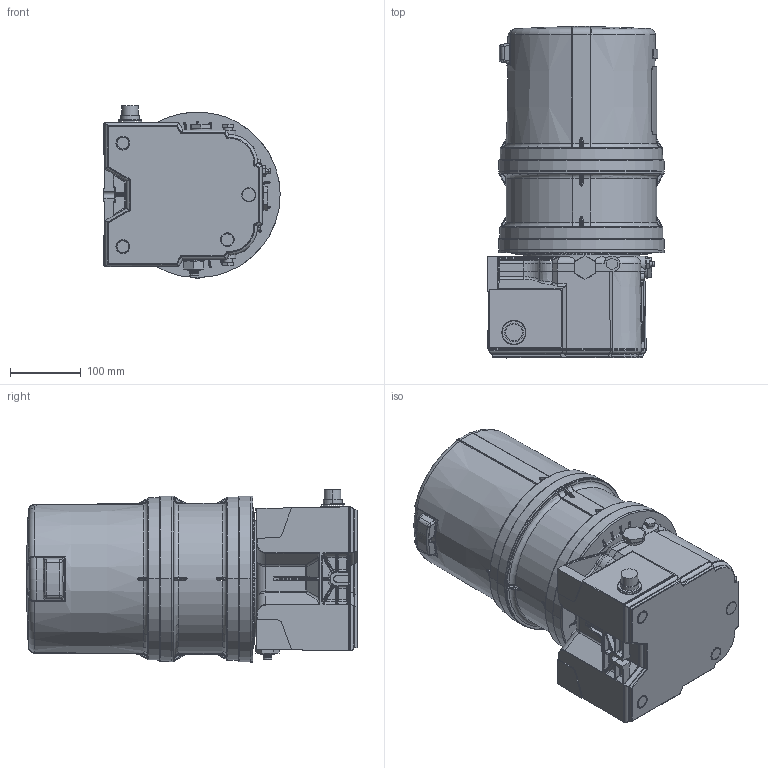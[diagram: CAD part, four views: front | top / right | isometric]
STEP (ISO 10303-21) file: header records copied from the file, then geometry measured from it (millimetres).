
FILE_DESCRIPTION((''),'2;1');
FILE_NAME('96G038-EN-ZDK_PRT','2024-07-31T17:49:13',('ctsxj5'),(''),'CREO PARAMETRIC BY PTC INC, 2023424','CREO PARAMETRIC BY PTC INC, 2023424','');
FILE_SCHEMA(('CONFIG_CONTROL_DESIGN'));
Products named in the file (1): 96G038-EN-ZDK_PRT
Bounding box: 248.92 x 468.45 x 244.2 mm (x, y, z)
Surface area: 772431.7 mm2 (no closed solid volume)
Topology: 0 solids, 48 shells, 1299 faces, 4701 edges, 3239 vertices
Faces by surface type: plane 429, cylinder 357, bspline 259, torus 129, cone 125
Entity records: 68594 total; most frequent: CARTESIAN_POINT 33960, ORIENTED_EDGE 6933, DIRECTION 6273, EDGE_CURVE 4693, VERTEX_POINT 3239, AXIS2_PLACEMENT_3D 2474, B_SPLINE_CURVE_WITH_KNOTS 1934, CIRCLE 1434
